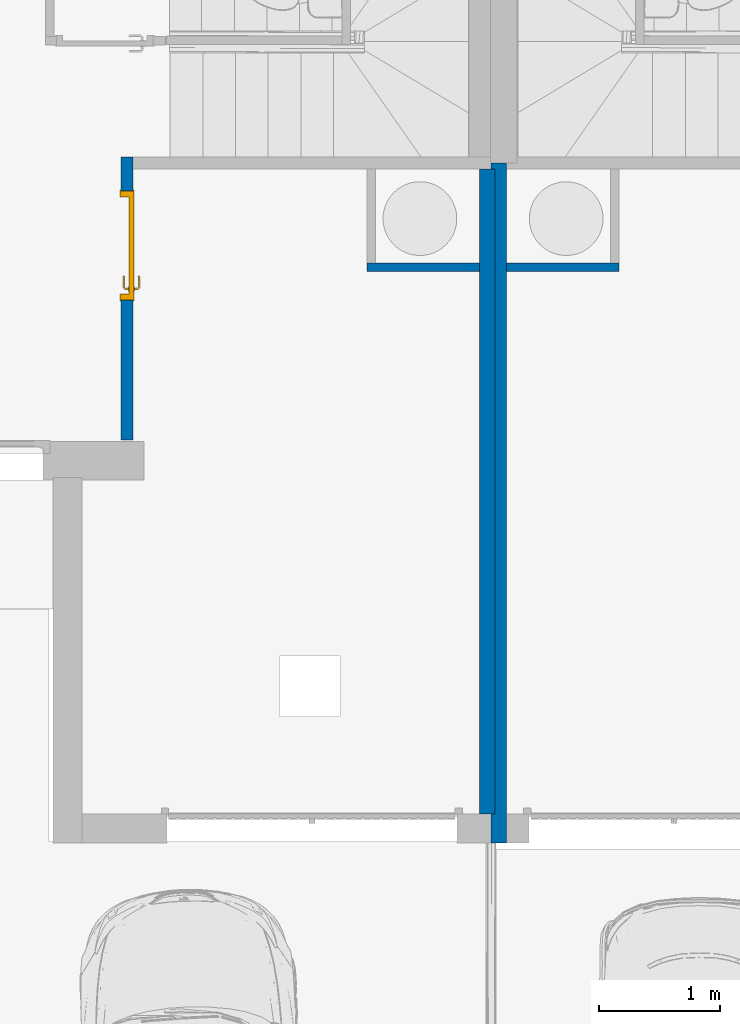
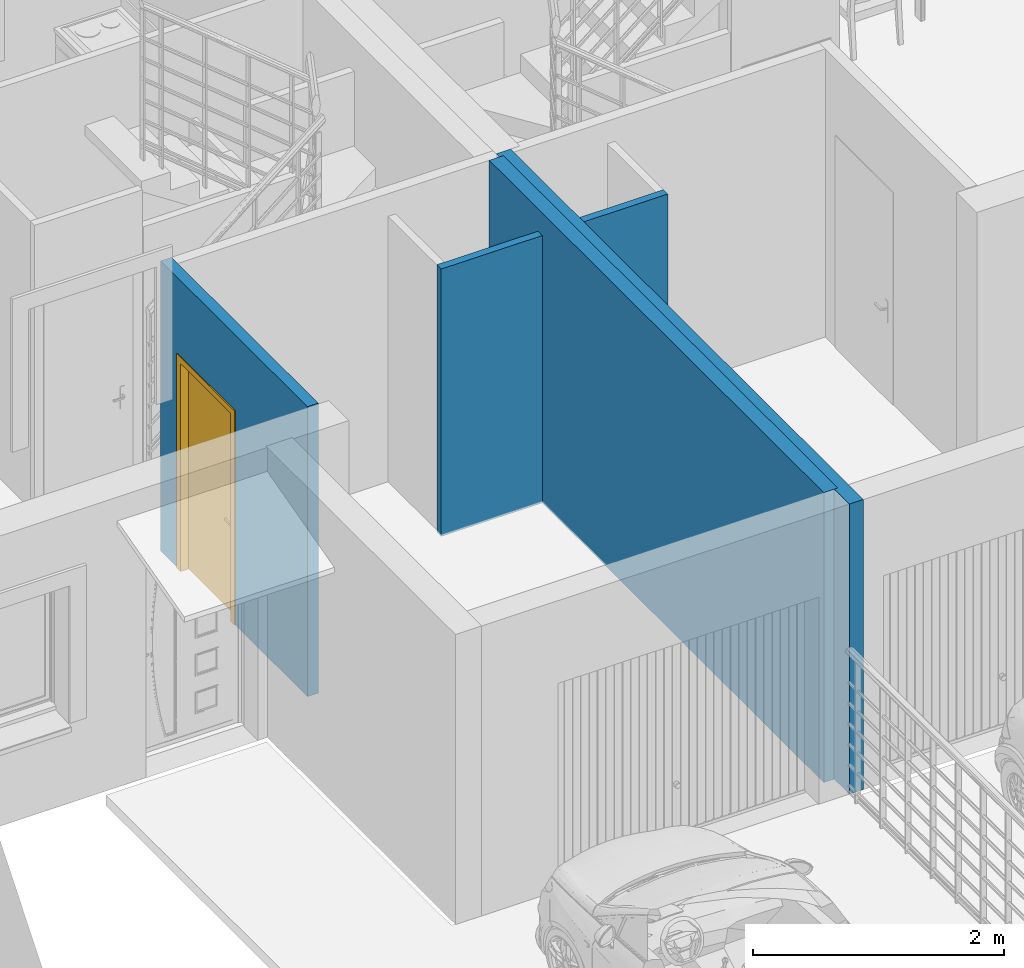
# One storey, part 18 of 33: 5 walls, 1 door, 1 opening.
"""IFC2X3 building model written with IfcOpenShell, lengths in metres."""

from ifc_helpers import new_model, entity, si_unit, converted_unit, derived_unit, direction, frame, frame_2d, origin, place, context, subcontext, project, spatial, rectangle, extrude, faceted_brep, source, transform, mapped, material, material_list, layer, layer_set, layer_usage, type_object, type_shapes, element, fill, save


model = new_model("IFC2X3")

# Units and contexts
model_context = context("Model", 3, precision=1e-05, world=origin(), true_north=direction((6.12303176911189e-17, 1.0)))
context_of_model = context(None, 3, precision=1e-05, world=origin(), true_north=direction((6.12303176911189e-17, 1.0)))
body_context = subcontext(model_context, "Body", "Model", "MODEL_VIEW")
ifc_project = project(units=[si_unit("LENGTHUNIT", "METRE"), si_unit("AREAUNIT", "SQUARE_METRE"), si_unit("VOLUMEUNIT", "CUBIC_METRE"), converted_unit("PLANEANGLEUNIT", "DEGREE", entity("IfcRatioMeasure", 0.0174532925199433), si_unit("PLANEANGLEUNIT", "RADIAN"), dimensions=[0, 0, 0, 0, 0, 0, 0]), si_unit("MASSUNIT", "GRAM", prefix="KILO"), si_unit("TIMEUNIT", "SECOND"), si_unit("FREQUENCYUNIT", "HERTZ"), si_unit("THERMODYNAMICTEMPERATUREUNIT", "DEGREE_CELSIUS"), derived_unit("THERMALTRANSMITTANCEUNIT", [(si_unit("MASSUNIT", "GRAM", prefix="KILO"), 1), (si_unit("THERMODYNAMICTEMPERATUREUNIT", "KELVIN"), -1), (si_unit("TIMEUNIT", "SECOND"), -3)]), derived_unit("VOLUMETRICFLOWRATEUNIT", [(si_unit("LENGTHUNIT", "METRE"), 3), (si_unit("TIMEUNIT", "SECOND"), -1)]), si_unit("ELECTRICCURRENTUNIT", "AMPERE"), si_unit("ELECTRICVOLTAGEUNIT", "VOLT"), si_unit("POWERUNIT", "WATT"), si_unit("FORCEUNIT", "NEWTON", prefix="KILO"), si_unit("ILLUMINANCEUNIT", "LUX"), si_unit("LUMINOUSFLUXUNIT", "LUMEN"), si_unit("LUMINOUSINTENSITYUNIT", "CANDELA"), si_unit("PRESSUREUNIT", "PASCAL")], contexts=[model_context, context_of_model])

# Site, building, storey
site_placement = place(None, origin())
site = spatial("IfcSite", under=ifc_project, at=site_placement, Name="Surface", CompositionType="ELEMENT")
building_placement = place(site_placement, origin())
building = spatial("IfcBuilding", under=site, at=building_placement, CompositionType="ELEMENT")
storey_placement = place(building_placement, origin())
storey = spatial("IfcBuildingStorey", under=building, at=storey_placement, Name="Plan des fondations  Maisons 1 et 2", CompositionType="ELEMENT", Elevation=0.0)

# Wall, opening, door
ifc_material_1 = material(Name="Peinture - Blanc")
ifc_layer_1 = layer(ifc_material_1, 0.1)
ifc_layer_set_1 = layer_set([ifc_layer_1], Name="Mur de base:Int.  Platre 100 mm en blanc 2")
ifc_layer_usage_1 = layer_usage(ifc_layer_set_1, "AXIS2", "POSITIVE", -0.05)
wall_type_1 = type_object("IfcWallType", Name="Mur de base:Int.  Platre 100 mm en blanc 2", PredefinedType="STANDARD", material=ifc_layer_set_1)
wall_1_placement = place(storey_placement, frame((80.7010189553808, 84.2575239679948, 0.0), z_axis=(0.0, 0.0, 1.0), x_axis=(0.0, 1.0, 0.0)))
wall_1 = element("IfcWallStandardCase", 1, at=wall_1_placement, inside=storey, type_object=wall_type_1, material=ifc_layer_usage_1, Name="Mur de base:Int.  Platre 100 mm en blanc 2", ObjectType="Mur de base:Int.  Platre 100 mm en blanc 2", context=body_context, shape_type="SweptSolid", body=[
    extrude(rectangle(XDim=2.33999999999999, YDim=0.100000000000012, at=frame_2d((1.16999999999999, -3.77128883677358e-15), x_axis=(-1.0, 0.0))), origin(), (0.0, 0.0, 1.0), 2.82),
])
opening_placement = place(wall_1_placement, frame((2.05999999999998, 0.0500000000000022, 0.0)))
opening = element("IfcOpeningElement", 2, at=opening_placement, cuts=wall_1, Name="FR_Simple (R):83 x 204 - (80):1", ObjectType="Opening", context=body_context, shape_type="SweptSolid", body=[
    extrude(rectangle(XDim=2.075, YDim=0.9, at=frame_2d((1.0375, 0.45), x_axis=(1.0, 0.0))), frame((0.0, 0.0, 0.0), z_axis=(0.0, -1.0, 0.0), x_axis=(0.0, 0.0, 1.0)), (0.0, 0.0, 1.0), 0.1),
])
ifc_material_2 = material(Name="Poignée Porte")
ifc_material_3 = material(Name="Dormants Portes")
ifc_material_4 = material(Name="Panneaux Portes")
ifc_material_list_1 = material_list([ifc_material_2, ifc_material_3, ifc_material_4])
ifc_material_list_2 = material_list([ifc_material_2, ifc_material_3, ifc_material_4])
door_style = type_object("IfcDoorStyle", Name="83 x 204 - (80)", ConstructionType="NOTDEFINED", OperationType="SINGLE_SWING_LEFT", ParameterTakesPrecedence=False, Sizeable=False, material=ifc_material_list_2)
shared_shape = source(origin(), body_context, "Body", "Brep", [
    faceted_brep([(0.1003527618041, -0.0130000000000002, 0.766003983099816), (0.109999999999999, -0.0130000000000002, 0.770000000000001), (0.109999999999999, -0.0130000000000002, 0.980000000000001), (0.1003527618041, -0.0130000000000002, 0.983996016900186), (0.0899999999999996, -0.0130000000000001, 0.985358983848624), (0.0796472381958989, -0.0130000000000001, 0.983996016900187), (0.0699999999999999, -0.0130000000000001, 0.980000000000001), (0.0699999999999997, -0.0130000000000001, 0.770000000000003), (0.0796472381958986, -0.0130000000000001, 0.766003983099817), (0.0899999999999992, -0.0130000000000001, 0.764641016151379), (0.1003527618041, -0.00800000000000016, 0.983996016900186), (0.109999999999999, -0.00800000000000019, 0.980000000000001), (0.109999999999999, -0.00800000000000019, 0.770000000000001), (0.1003527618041, -0.00800000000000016, 0.766003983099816), (0.0899999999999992, -0.00800000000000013, 0.764641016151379), (0.0796472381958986, -0.00800000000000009, 0.766003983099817), (0.0699999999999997, -0.00800000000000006, 0.770000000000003), (0.0699999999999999, -0.00800000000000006, 0.980000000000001), (0.0796472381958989, -0.00800000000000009, 0.983996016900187), (0.0899999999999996, -0.00800000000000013, 0.985358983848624)], [[[0, 1, 2, 3, 4, 5, 6, 7, 8, 9]], [[10, 11, 12, 13, 14, 15, 16, 17, 18, 19]], [[16, 15, 8, 7]], [[8, 15, 14, 9]], [[14, 13, 0, 9]], [[13, 12, 1, 0]], [[2, 1, 12, 11]], [[11, 10, 3, 2]], [[3, 10, 19, 4]], [[19, 18, 5, 4]], [[18, 17, 6, 5]], [[7, 6, 17, 16]]]),
    faceted_brep([(0.1003527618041, 0.0319999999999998, 0.766003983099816), (0.109999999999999, 0.0319999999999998, 0.770000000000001), (0.109999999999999, 0.0319999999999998, 0.980000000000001), (0.1003527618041, 0.0319999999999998, 0.983996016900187), (0.0899999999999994, 0.0319999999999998, 0.985358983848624), (0.0796472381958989, 0.0319999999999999, 0.983996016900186), (0.0699999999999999, 0.0319999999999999, 0.980000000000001), (0.0700000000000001, 0.0319999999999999, 0.770000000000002), (0.0796472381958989, 0.0319999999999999, 0.766003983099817), (0.0899999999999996, 0.0319999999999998, 0.764641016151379), (0.1003527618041, 0.0369999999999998, 0.983996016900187), (0.109999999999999, 0.0369999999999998, 0.980000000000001), (0.11, 0.0369999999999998, 0.770000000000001), (0.1003527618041, 0.0369999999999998, 0.766003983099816), (0.0899999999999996, 0.0369999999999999, 0.764641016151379), (0.079647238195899, 0.0369999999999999, 0.766003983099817), (0.0699999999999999, 0.0369999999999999, 0.770000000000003), (0.0699999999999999, 0.0369999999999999, 0.980000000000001), (0.0796472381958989, 0.0369999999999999, 0.983996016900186), (0.0899999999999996, 0.0369999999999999, 0.985358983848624)], [[[0, 1, 2, 3, 4, 5, 6, 7, 8, 9]], [[10, 11, 12, 13, 14, 15, 16, 17, 18, 19]], [[11, 10, 3, 2]], [[3, 10, 19, 4]], [[19, 18, 5, 4]], [[18, 17, 6, 5]], [[7, 6, 17, 16]], [[16, 15, 8, 7]], [[8, 15, 14, 9]], [[14, 13, 0, 9]], [[13, 12, 1, 0]], [[2, 1, 12, 11]]]),
    faceted_brep([(0.0879747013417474, -0.0130000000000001, 0.907780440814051), (0.092025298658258, -0.0130000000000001, 0.907780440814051), (0.0960000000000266, -0.0130000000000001, 0.906999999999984), (0.0960000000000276, -0.0130000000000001, 0.893000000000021), (0.0920252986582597, -0.0130000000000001, 0.89221955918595), (0.0879747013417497, -0.0130000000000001, 0.892219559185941), (0.0839999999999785, -0.0130000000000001, 0.892999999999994), (0.0839999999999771, -0.0130000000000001, 0.90699999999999), (0.0839999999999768, -0.0406509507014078, 0.906999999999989), (0.0879747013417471, -0.0390045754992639, 0.907780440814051), (0.10402358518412, -0.0550534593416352, 0.907780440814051), (0.10570139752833, -0.0510028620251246, 0.907780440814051), (0.0920252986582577, -0.0373267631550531, 0.907780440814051), (0.19852181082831, -0.0473891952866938, 0.90778044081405), (0.195657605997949, -0.0445249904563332, 0.90778044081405), (0.189179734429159, -0.0510028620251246, 0.90778044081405), (0.19085754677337, -0.0550534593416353, 0.90778044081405), (0.096000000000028, -0.0356803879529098, 0.90699999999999), (0.0960000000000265, -0.0356803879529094, 0.893000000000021), (0.0920252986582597, -0.0373267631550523, 0.89221955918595), (0.105701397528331, -0.0510028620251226, 0.89221955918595), (0.104023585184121, -0.0550534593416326, 0.89221955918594), (0.0879747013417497, -0.0390045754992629, 0.89221955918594), (0.195657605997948, -0.044524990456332, 0.89221955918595), (0.198521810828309, -0.0473891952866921, 0.89221955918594), (0.190857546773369, -0.0550534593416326, 0.89221955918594), (0.189179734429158, -0.0510028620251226, 0.89221955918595), (0.0839999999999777, -0.0406509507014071, 0.892999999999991), (0.102377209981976, -0.0590281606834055, 0.906999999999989), (0.107347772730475, -0.0470281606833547, 0.90699999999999), (0.107347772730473, -0.0470281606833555, 0.893000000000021), (0.102377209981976, -0.0590281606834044, 0.892999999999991), (0.142307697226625, -0.0590281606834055, 0.906999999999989), (0.147440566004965, -0.053182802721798, 0.907878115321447), (0.192503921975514, -0.0590281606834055, 0.906999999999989), (0.147440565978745, -0.0470281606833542, 0.90699999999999), (0.187533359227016, -0.0470281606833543, 0.906999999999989), (0.187533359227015, -0.0470281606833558, 0.89300000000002), (0.147440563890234, -0.0470281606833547, 0.893000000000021), (0.14744056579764, -0.0531828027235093, 0.892121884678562), (0.192503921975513, -0.0590281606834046, 0.892999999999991), (0.152573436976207, -0.0590281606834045, 0.892999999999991), (0.192847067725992, -0.0417144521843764, 0.906999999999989), (0.201332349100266, -0.0501997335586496, 0.906999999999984), (0.201332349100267, -0.0501997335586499, 0.892999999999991), (0.192847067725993, -0.0417144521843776, 0.893000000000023)], [[[0, 1, 2, 3, 4, 5, 6, 7]], [[8, 9, 0, 7]], [[9, 10, 11, 12, 1, 0]], [[13, 14, 15, 16]], [[12, 17, 2, 1]], [[3, 2, 17, 18]], [[18, 19, 4, 3]], [[19, 20, 21, 22, 5, 4]], [[23, 24, 25, 26]], [[22, 27, 6, 5]], [[7, 6, 27, 8]], [[28, 10, 9, 8]], [[11, 29, 17, 12]], [[18, 17, 29, 30]], [[30, 20, 19, 18]], [[21, 31, 27, 22]], [[8, 27, 31, 28]], [[32, 33, 10]], [[33, 32, 16]], [[10, 28, 32]], [[34, 16, 32]], [[33, 35, 11]], [[11, 10, 33]], [[15, 35, 33]], [[29, 11, 35]], [[35, 15, 36]], [[15, 33, 16]], [[30, 29, 35, 36, 37, 38]], [[20, 38, 39]], [[25, 40, 41]], [[31, 21, 41]], [[41, 21, 39]], [[39, 38, 26]], [[26, 25, 39]], [[38, 20, 30]], [[37, 26, 38]], [[20, 39, 21]], [[41, 39, 25]], [[28, 31, 41, 40, 34, 32]], [[42, 14, 13, 43, 44, 24, 23, 45]], [[43, 13, 16, 34]], [[14, 42, 36, 15]], [[37, 36, 42, 45]], [[45, 23, 26, 37]], [[24, 44, 40, 25]], [[34, 40, 44, 43]]]),
    faceted_brep([(0.0879747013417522, 0.0369999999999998, 0.892219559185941), (0.0920252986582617, 0.0369999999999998, 0.892219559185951), (0.0960000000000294, 0.0369999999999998, 0.893000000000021), (0.0960000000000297, 0.0369999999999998, 0.90699999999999), (0.0920252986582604, 0.0369999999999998, 0.907780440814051), (0.0879747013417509, 0.0369999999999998, 0.907780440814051), (0.0839999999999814, 0.0369999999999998, 0.90699999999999), (0.083999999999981, 0.0369999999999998, 0.892999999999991), (0.0960000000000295, 0.0594852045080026, 0.893000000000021), (0.0960000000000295, 0.0594852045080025, 0.90699999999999), (0.0920252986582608, 0.0611315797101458, 0.907780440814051), (0.105838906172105, 0.0749451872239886, 0.907780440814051), (0.104161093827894, 0.0789957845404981, 0.907780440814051), (0.0879747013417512, 0.0628093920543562, 0.907780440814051), (0.195684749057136, 0.0684673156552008, 0.907780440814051), (0.198548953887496, 0.071331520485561, 0.907780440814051), (0.190884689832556, 0.0789957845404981, 0.907780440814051), (0.189206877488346, 0.0749451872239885, 0.907780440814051), (0.0839999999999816, 0.0644557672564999, 0.90699999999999), (0.0839999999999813, 0.0644557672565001, 0.892999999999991), (0.0879747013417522, 0.0628093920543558, 0.892219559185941), (0.104161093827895, 0.0789957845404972, 0.892219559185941), (0.105838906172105, 0.0749451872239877, 0.892219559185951), (0.0920252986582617, 0.0611315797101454, 0.892219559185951), (0.198548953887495, 0.07133152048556, 0.89221955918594), (0.195684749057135, 0.0684673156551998, 0.89221955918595), (0.189206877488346, 0.0749451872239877, 0.89221955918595), (0.190884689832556, 0.0789957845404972, 0.89221955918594), (0.107485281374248, 0.0709704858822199, 0.893000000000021), (0.107485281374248, 0.0709704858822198, 0.90699999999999), (0.102514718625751, 0.0829704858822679, 0.90699999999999), (0.102514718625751, 0.0829704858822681, 0.892999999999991), (0.147522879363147, 0.0709704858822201, 0.89300000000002), (0.187560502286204, 0.0709704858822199, 0.89300000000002), (0.187560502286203, 0.0709704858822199, 0.90699999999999), (0.147522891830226, 0.0709704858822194, 0.90699999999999), (0.147522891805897, 0.0771249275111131, 0.907878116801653), (0.1925310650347, 0.0829704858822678, 0.90699999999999), (0.152600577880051, 0.0829704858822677, 0.90699999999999), (0.1925310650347, 0.082970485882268, 0.892999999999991), (0.142445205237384, 0.0829704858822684, 0.892999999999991), (0.147522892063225, 0.0771249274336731, 0.892121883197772), (0.19287421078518, 0.0656567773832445, 0.89300000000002), (0.201359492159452, 0.0741420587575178, 0.892999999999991), (0.201359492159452, 0.0741420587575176, 0.90699999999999), (0.19287421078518, 0.0656567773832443, 0.90699999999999)], [[[0, 1, 2, 3, 4, 5, 6, 7]], [[3, 2, 8, 9]], [[9, 10, 4, 3]], [[10, 11, 12, 13, 5, 4]], [[14, 15, 16, 17]], [[13, 18, 6, 5]], [[7, 6, 18, 19]], [[19, 20, 0, 7]], [[20, 21, 22, 23, 1, 0]], [[24, 25, 26, 27]], [[23, 8, 2, 1]], [[9, 8, 28, 29]], [[29, 11, 10, 9]], [[12, 30, 18, 13]], [[19, 18, 30, 31]], [[31, 21, 20, 19]], [[22, 28, 8, 23]], [[28, 32, 33, 34, 35, 29]], [[11, 35, 36]], [[16, 37, 38]], [[30, 12, 38]], [[38, 12, 36]], [[36, 35, 17]], [[17, 16, 36]], [[35, 11, 29]], [[34, 17, 35]], [[11, 36, 12]], [[38, 36, 16]], [[31, 30, 38, 37, 39, 40]], [[40, 41, 21]], [[41, 40, 27]], [[21, 31, 40]], [[39, 27, 40]], [[41, 32, 22]], [[22, 21, 41]], [[26, 32, 41]], [[28, 22, 32]], [[32, 26, 33]], [[26, 41, 27]], [[42, 25, 24, 43, 44, 15, 14, 45]], [[34, 33, 42, 45]], [[45, 14, 17, 34]], [[15, 44, 37, 16]], [[39, 37, 44, 43]], [[43, 24, 27, 39]], [[25, 42, 33, 26]]]),
    faceted_brep([(0.0, 0.0, 0.0), (0.0, 0.10000000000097, 0.0), (-0.00999999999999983, 0.10000000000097, 0.0), (-0.00999999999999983, 0.108000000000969, 0.0), (0.0499999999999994, 0.108000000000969, 0.0), (0.0499999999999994, 0.032, 0.0), (0.0349999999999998, 0.032, 0.0), (0.0349999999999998, -0.00799999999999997, 0.0), (-0.00999999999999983, -0.00799999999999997, 0.0), (-0.00999999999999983, 0.0, 0.0), (0.0, 0.0, 2.075), (0.0, 0.10000000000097, 2.075), (0.9, 0.10000000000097, 2.075), (0.9, 0.10000000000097, 0.0), (0.91, 0.10000000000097, 0.0), (0.91, 0.10000000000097, 2.085), (-0.00999999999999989, 0.10000000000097, 2.085), (-0.00999999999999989, 0.108000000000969, 2.085), (0.91, 0.108000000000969, 2.085), (0.91, 0.108000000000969, 0.0), (0.850000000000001, 0.108000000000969, 0.0), (0.850000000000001, 0.108000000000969, 2.025), (0.0499999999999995, 0.108000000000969, 2.025), (0.0499999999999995, 0.032, 2.025), (0.850000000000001, 0.032, 2.025), (0.850000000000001, 0.032, 0.0), (0.865, 0.032, 0.0), (0.865, 0.032, 2.04), (0.0349999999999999, 0.032, 2.04), (0.0349999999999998, -0.00799999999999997, 2.04), (0.865, -0.00799999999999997, 2.04), (0.865, -0.00799999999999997, 0.0), (0.91, -0.00799999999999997, 0.0), (0.91, -0.00799999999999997, 2.085), (-0.00999999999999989, -0.00799999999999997, 2.085), (-0.00999999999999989, 0.0, 2.085), (0.91, 0.0, 2.085), (0.91, 0.0, 0.0), (0.9, 0.0, 0.0), (0.9, 0.0, 2.075)], [[[0, 1, 2, 3, 4, 5, 6, 7, 8, 9]], [[1, 0, 10, 11]], [[2, 1, 11, 12, 13, 14, 15, 16]], [[3, 2, 16, 17]], [[4, 3, 17, 18, 19, 20, 21, 22]], [[5, 4, 22, 23]], [[6, 5, 23, 24, 25, 26, 27, 28]], [[7, 6, 28, 29]], [[8, 7, 29, 30, 31, 32, 33, 34]], [[9, 8, 34, 35]], [[0, 9, 35, 36, 37, 38, 39, 10]], [[11, 10, 39, 12]], [[17, 16, 15, 18]], [[23, 22, 21, 24]], [[29, 28, 27, 30]], [[35, 34, 33, 36]], [[38, 37, 32, 31, 26, 25, 20, 19, 14, 13]], [[12, 39, 38, 13]], [[18, 15, 14, 19]], [[24, 21, 20, 25]], [[30, 27, 26, 31]], [[36, 33, 32, 37]]]),
    faceted_brep([(0.0349999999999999, -0.00799999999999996, 2.04), (0.0349999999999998, -0.00799999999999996, 0.0), (0.865, -0.00799999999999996, 0.0), (0.865, -0.00799999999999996, 2.04), (0.0349999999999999, 0.032, 2.04), (0.865, 0.032, 2.04), (0.865, 0.032, 0.0), (0.0349999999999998, 0.032, 0.0)], [[[0, 1, 2, 3]], [[4, 5, 6, 7]], [[1, 0, 4, 7]], [[2, 1, 7, 6]], [[3, 2, 6, 5]], [[0, 3, 5, 4]]]),
])
type_shapes(door_style, [shared_shape])
door_placement = place(opening_placement, frame((-0.900000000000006, -0.100000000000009, 0.0)))
door = element("IfcDoor", 3, at=door_placement, inside=storey, type_object=door_style, material=ifc_material_list_1, Name="FR_Simple (R):83 x 204 - (80)", ObjectType="83 x 204 - (80)", OverallHeight=2.075, OverallWidth=0.900000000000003, context=body_context, shape_type="MappedRepresentation", body=[
    mapped(shared_shape, transform((0.0, 0.0, 0.0), scale=1.0)),
])
fill(opening, door)

# Walls
ifc_material_5 = material(Name="Enduit blanc cassé2")
ifc_layer_2 = layer(ifc_material_5, 0.015)
ifc_material_6 = material(Name="Parpaing")
ifc_layer_3 = layer(ifc_material_6, 0.1)
ifc_layer_4 = layer(ifc_material_5, 0.015)
ifc_layer_set_2 = layer_set([ifc_layer_2, ifc_layer_3, ifc_layer_4], Name="Mur de base:Ext. Parpaing 10 + 2 x 1.5 2")
ifc_layer_usage_2 = layer_usage(ifc_layer_set_2, "AXIS2", "NEGATIVE", 0.065)
wall_type_2 = type_object("IfcWallType", Name="Mur de base:Ext. Parpaing 10 + 2 x 1.5 2", PredefinedType="STANDARD", material=ifc_layer_set_2)
wall_2_placement = place(building_placement, frame((83.7767857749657, 86.5475239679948, 0.0), z_axis=(0.0, 0.0, 1.0), x_axis=(0.0, -1.0, 0.0)))
element("IfcWallStandardCase", 4, at=wall_2_placement, inside=storey, type_object=wall_type_2, material=ifc_layer_usage_2, Name="Mur de base:Ext. Parpaing 10 + 2 x 1.5 2", ObjectType="Mur de base:Ext. Parpaing 10 + 2 x 1.5 2", context=body_context, shape_type="SweptSolid", body=[
    extrude(rectangle(XDim=5.61999999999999, YDim=0.130000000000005, at=frame_2d((2.80999999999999, 0.0), x_axis=(-1.0, 0.0))), origin(), (0.0, 0.0, 1.0), 2.82),
])
ifc_layer_usage_3 = layer_usage(ifc_layer_set_2, "AXIS2", "POSITIVE", -0.065)
wall_3_placement = place(storey_placement, frame((83.6810189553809, 86.4975239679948, 0.0), z_axis=(0.0, 0.0, 1.0), x_axis=(0.0, -1.0, 0.0)))
element("IfcWallStandardCase", 5, at=wall_3_placement, inside=storey, type_object=wall_type_2, material=ifc_layer_usage_3, Name="Mur de base:Ext. Parpaing 10 + 2 x 1.5 2", ObjectType="Mur de base:Ext. Parpaing 10 + 2 x 1.5 2", context=body_context, shape_type="SweptSolid", body=[
    extrude(rectangle(XDim=5.32999999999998, YDim=0.130000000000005, at=frame_2d((2.66499999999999, 0.0), x_axis=(-1.0, 0.0))), origin(), (0.0, 0.0, 1.0), 2.82),
])
ifc_layer_5 = layer(ifc_material_1, 0.07)
ifc_layer_set_3 = layer_set([ifc_layer_5], Name="Mur de base:Int.  Platre 70 mm en blanc")
ifc_layer_usage_4 = layer_usage(ifc_layer_set_3, "AXIS2", "NEGATIVE", 0.035)
wall_type_3 = type_object("IfcWallType", Name="Mur de base:Int.  Platre 70 mm en blanc", PredefinedType="STANDARD", material=ifc_layer_set_3)
wall_4_placement = place(building_placement, frame((83.8417857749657, 85.6875239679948, 0.0)))
element("IfcWallStandardCase", 6, at=wall_4_placement, inside=storey, type_object=wall_type_3, material=ifc_layer_usage_4, Name="Mur de base:Int.  Platre 70 mm en blanc", ObjectType="Mur de base:Int.  Platre 70 mm en blanc", context=body_context, shape_type="SweptSolid", body=[
    extrude(rectangle(XDim=0.929999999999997, YDim=0.0699999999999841, at=frame_2d((0.464999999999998, 0.0), x_axis=(-1.0, 0.0))), origin(), (0.0, 0.0, 1.0), 2.6),
])
ifc_layer_usage_5 = layer_usage(ifc_layer_set_3, "AXIS2", "POSITIVE", -0.035)
wall_5_placement = place(storey_placement, frame((83.6160189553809, 85.6875239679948, 0.0), z_axis=(0.0, 0.0, 1.0), x_axis=(-1.0, 0.0, 0.0)))
element("IfcWallStandardCase", 7, at=wall_5_placement, inside=storey, type_object=wall_type_3, material=ifc_layer_usage_5, Name="Mur de base:Int.  Platre 70 mm en blanc", ObjectType="Mur de base:Int.  Platre 70 mm en blanc", context=body_context, shape_type="SweptSolid", body=[
    extrude(rectangle(XDim=0.929999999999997, YDim=0.0699999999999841, at=frame_2d((0.464999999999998, 0.0), x_axis=(-1.0, 0.0))), origin(), (0.0, 0.0, 1.0), 2.6),
])

save(model, "model.ifc")
